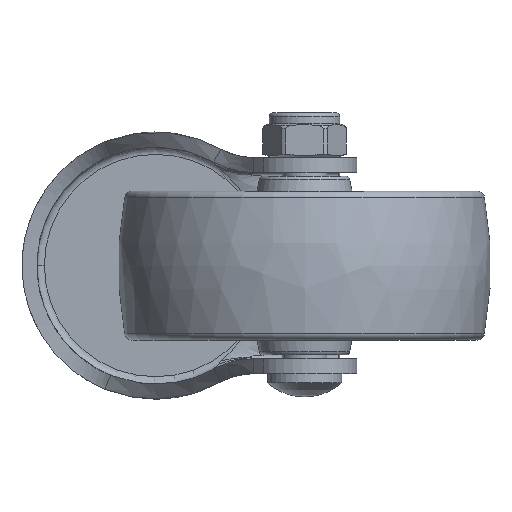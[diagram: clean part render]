
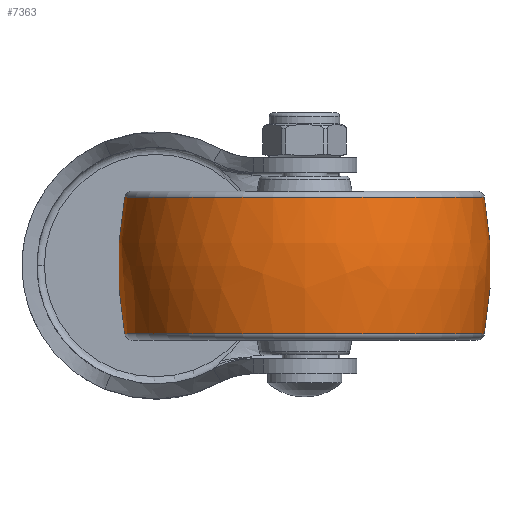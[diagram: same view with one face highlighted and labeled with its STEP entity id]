
A CAD part, front view. The second image highlights one B-rep face of the part: STEP entity #7363.
In plain terms, the highlighted free-form (B-spline) face has degree [3, 3] with [7, 4] control points.
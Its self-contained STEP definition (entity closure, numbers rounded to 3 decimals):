
#6989=CARTESIAN_POINT('',(0.,-25.,0.));
#6990=DIRECTION('',(0.,0.,1.));
#6991=DIRECTION('',(0.184,0.983,0.));
#6992=AXIS2_PLACEMENT_3D('',#6989,#6990,#6991);
#6994=CARTESIAN_POINT('',(0.,25.,0.));
#6995=DIRECTION('',(0.,0.,-1.));
#6996=DIRECTION('',(0.184,-0.983,0.));
#6997=AXIS2_PLACEMENT_3D('',#6994,#6995,#6996);
#6999=CARTESIAN_POINT('',(9.184,0.,0.));
#7000=DIRECTION('',(-1.,0.,0.));
#7001=DIRECTION('',(0.,1.,0.));
#7002=AXIS2_PLACEMENT_3D('',#6999,#7000,#7001);
#7024=CARTESIAN_POINT('',(-9.184,0.,0.));
#7025=DIRECTION('',(-1.,0.,0.));
#7026=DIRECTION('',(0.,1.,0.));
#7027=AXIS2_PLACEMENT_3D('',#7024,#7025,#7026);
#7164=CARTESIAN_POINT('',(9.184,24.149,0.));
#7166=VERTEX_POINT('',#7164);
#7167=CARTESIAN_POINT('',(-9.184,24.149,0.));
#7168=VERTEX_POINT('',#7167);
#7172=CARTESIAN_POINT('',(9.184,-24.149,0.));
#7174=VERTEX_POINT('',#7172);
#7175=CARTESIAN_POINT('',(-9.184,-24.149,0.));
#7176=VERTEX_POINT('',#7175);
#7325=CARTESIAN_POINT('',(-9.547,-24.033,
1.512));
#7326=CARTESIAN_POINT('',(-3.222,-25.26,
1.589));
#7327=CARTESIAN_POINT('',(3.222,-25.26,1.589));
#7328=CARTESIAN_POINT('',(9.547,-24.033,1.512));
#7329=CARTESIAN_POINT('',(-9.547,-24.963,
-13.278));
#7330=CARTESIAN_POINT('',(-3.222,-26.238,
-13.956));
#7331=CARTESIAN_POINT('',(3.222,-26.238,
-13.956));
#7332=CARTESIAN_POINT('',(9.547,-24.963,
-13.278));
#7333=CARTESIAN_POINT('',(-9.547,-14.819,
-24.08));
#7334=CARTESIAN_POINT('',(-3.222,-15.576,
-25.31));
#7335=CARTESIAN_POINT('',(3.222,-15.576,
-25.31));
#7336=CARTESIAN_POINT('',(9.547,-14.819,
-24.08));
#7337=CARTESIAN_POINT('',(-9.547,0.,-24.08));
#7338=CARTESIAN_POINT('',(-3.222,0.,-25.31));
#7339=CARTESIAN_POINT('',(3.222,0.,-25.31));
#7340=CARTESIAN_POINT('',(9.547,0.,-24.08));
#7341=CARTESIAN_POINT('',(-9.547,14.819,
-24.08));
#7342=CARTESIAN_POINT('',(-3.222,15.576,
-25.31));
#7343=CARTESIAN_POINT('',(3.222,15.576,-25.31));
#7344=CARTESIAN_POINT('',(9.547,14.819,-24.08));
#7345=CARTESIAN_POINT('',(-9.547,24.963,
-13.278));
#7346=CARTESIAN_POINT('',(-3.222,26.238,
-13.956));
#7347=CARTESIAN_POINT('',(3.222,26.238,-13.956));
#7348=CARTESIAN_POINT('',(9.547,24.963,-13.278));
#7349=CARTESIAN_POINT('',(-9.547,24.033,1.512));
#7350=CARTESIAN_POINT('',(-3.222,25.26,1.589));
#7351=CARTESIAN_POINT('',(3.222,25.26,1.589));
#7352=CARTESIAN_POINT('',(9.547,24.033,1.512));
#7353=(BOUNDED_SURFACE()B_SPLINE_SURFACE(3,3,((#7325,#7326,#7327,#7328),(#7329,
#7330,#7331,#7332),(#7333,#7334,#7335,#7336),(#7337,#7338,#7339,#7340),(#7341,
#7342,#7343,#7344),(#7345,#7346,#7347,#7348),(#7349,#7350,#7351,#7352)),
.UNSPECIFIED.,.F.,.F.,.F.)B_SPLINE_SURFACE_WITH_KNOTS((4,3,4),(4,4),(0.,1.,
2.),(0.,1.),.UNSPECIFIED.)GEOMETRIC_REPRESENTATION_ITEM()RATIONAL_B_SPLINE_SURFACE(((1.198,1.184,1.184,1.198),(
0.946,0.935,0.935,0.946),(
0.946,0.935,0.935,0.946),(
1.198,1.184,1.184,1.198),(
0.946,0.935,0.935,0.946),(
0.946,0.935,0.935,0.946),(
1.198,1.184,1.184,1.198)))REPRESENTATION_ITEM('')SURFACE());
#7355=ORIENTED_EDGE('',*,*,#7354,.T.);
#7357=ORIENTED_EDGE('',*,*,#7356,.T.);
#7359=ORIENTED_EDGE('',*,*,#7358,.F.);
#7360=ORIENTED_EDGE('',*,*,#7318,.F.);
#7361=EDGE_LOOP('',(#7355,#7357,#7359,#7360));
#7362=FACE_OUTER_BOUND('',#7361,.F.);
#6993=CIRCLE('',#6992,50.);
#6998=CIRCLE('',#6997,50.);
#7003=CIRCLE('',#7002,24.149);
#7028=CIRCLE('',#7027,24.149);
#7318=EDGE_CURVE('',#7166,#7174,#7003,.T.);
#7354=EDGE_CURVE('',#7166,#7168,#6993,.T.);
#7356=EDGE_CURVE('',#7168,#7176,#7028,.T.);
#7358=EDGE_CURVE('',#7174,#7176,#6998,.T.);
#7363=ADVANCED_FACE('',(#7362),#7353,.T.);
